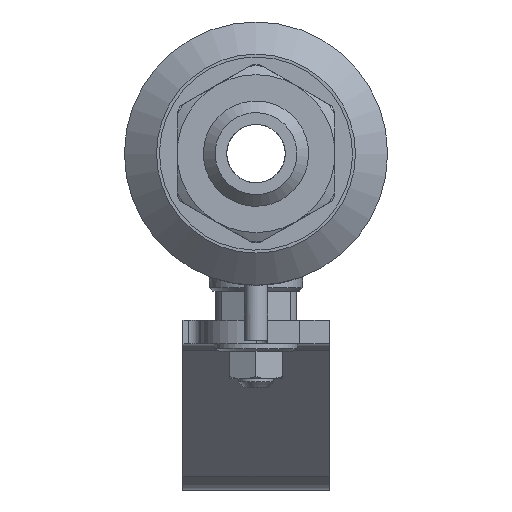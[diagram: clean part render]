
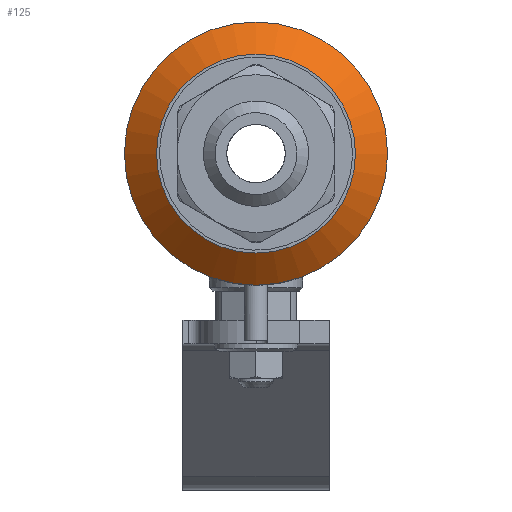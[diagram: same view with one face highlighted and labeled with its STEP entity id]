
A CAD part, left-side view. The second image highlights one B-rep face of the part: STEP entity #125.
In plain terms, the highlighted conical face has half-angle 50 degrees and reference radius 19.75 mm.
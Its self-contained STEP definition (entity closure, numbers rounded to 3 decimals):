
#125=ADVANCED_FACE('',(#1090),#1092,.T.);
#1090=FACE_OUTER_BOUND('',#1091,.T.);
#1091=EDGE_LOOP('',(#2810,#2811,#2812,#2813));
#1092=CONICAL_SURFACE('',#1093,19.75,0.873);
#1093=AXIS2_PLACEMENT_3D('',#1094,#1095,#1096);
#1094=CARTESIAN_POINT('',(-17.692,0.,0.));
#1095=DIRECTION('',(1.,0.,0.));
#1096=DIRECTION('',(0.,1.,0.));
#2810=ORIENTED_EDGE('',*,*,#4282,.T.);
#2811=ORIENTED_EDGE('',*,*,#4275,.T.);
#2812=ORIENTED_EDGE('',*,*,#4282,.F.);
#2813=ORIENTED_EDGE('',*,*,#4283,.F.);
#4275=EDGE_CURVE('',#4805,#4805,#4807,.T.);
#4282=EDGE_CURVE('',#4818,#4805,#4819,.T.);
#4283=EDGE_CURVE('',#4818,#4818,#4820,.T.);
#4805=VERTEX_POINT('',#6415);
#4807=CIRCLE('',#6419,22.5);
#4818=VERTEX_POINT('',#6449);
#4819=LINE('',#6450,#6451);
#4820=CIRCLE('',#6453,17.);
#6415=CARTESIAN_POINT('',(-15.385,-22.5,0.));
#6419=AXIS2_PLACEMENT_3D('',#6420,#6421,#6422);
#6420=CARTESIAN_POINT('',(-15.385,0.,0.));
#6421=DIRECTION('',(-1.,-0.,0.));
#6422=DIRECTION('',(0.,-1.,0.));
#6449=CARTESIAN_POINT('',(-20.,-17.,0.));
#6450=CARTESIAN_POINT('',(-20.,-17.,0.));
#6451=VECTOR('',#6452,1.);
#6452=DIRECTION('',(0.643,-0.766,0.));
#6453=AXIS2_PLACEMENT_3D('',#6454,#6455,#6456);
#6454=CARTESIAN_POINT('',(-20.,0.,0.));
#6455=DIRECTION('',(-1.,-0.,-0.));
#6456=DIRECTION('',(0.,-1.,0.));
